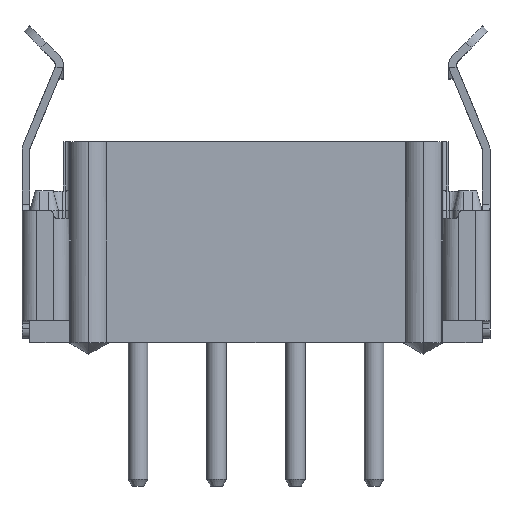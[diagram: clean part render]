
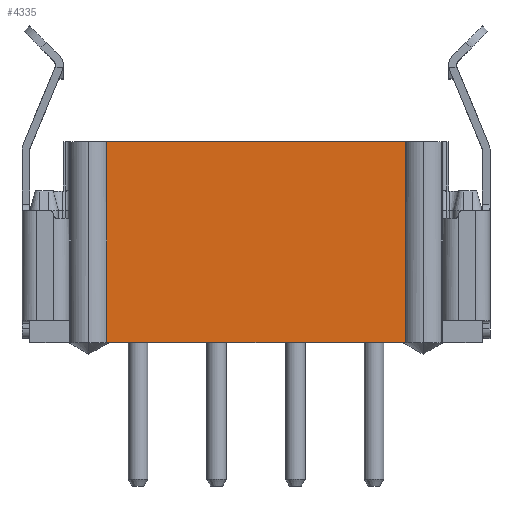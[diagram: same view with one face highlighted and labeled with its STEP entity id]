
A CAD part, top view. The second image highlights one B-rep face of the part: STEP entity #4335.
In plain terms, the highlighted planar face has unit normal (0, 0, 1).
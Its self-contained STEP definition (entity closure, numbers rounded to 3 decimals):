
#81=DIRECTION('',(-1.,0.,0.));
#82=VECTOR('',#81,7.583);
#83=CARTESIAN_POINT('',(3.792,0.,2.775));
#84=LINE('',#83,#82);
#931=DIRECTION('',(-1.,0.,0.));
#932=VECTOR('',#931,7.583);
#933=CARTESIAN_POINT('',(3.792,5.1,2.775));
#934=LINE('',#933,#932);
#1075=DIRECTION('',(0.,1.,0.));
#1076=VECTOR('',#1075,5.1);
#1077=CARTESIAN_POINT('',(-3.792,0.,2.775));
#1078=LINE('',#1077,#1076);
#1082=DIRECTION('',(0.,-1.,0.));
#1083=VECTOR('',#1082,5.1);
#1084=CARTESIAN_POINT('',(3.792,5.1,2.775));
#1085=LINE('',#1084,#1083);
#3231=CARTESIAN_POINT('',(3.792,0.,2.775));
#3233=VERTEX_POINT('',#3231);
#3239=CARTESIAN_POINT('',(3.792,5.1,2.775));
#3240=VERTEX_POINT('',#3239);
#3461=CARTESIAN_POINT('',(-3.792,0.,2.775));
#3463=VERTEX_POINT('',#3461);
#3469=CARTESIAN_POINT('',(-3.792,5.1,2.775));
#3470=VERTEX_POINT('',#3469);
#4322=CARTESIAN_POINT('',(4.75,0.,2.775));
#4323=DIRECTION('',(0.,0.,1.));
#4324=DIRECTION('',(-1.,0.,0.));
#4325=AXIS2_PLACEMENT_3D('',#4322,#4323,#4324);
#4326=PLANE('',#4325);
#4328=ORIENTED_EDGE('',*,*,#4327,.T.);
#4329=ORIENTED_EDGE('',*,*,#4252,.F.);
#4331=ORIENTED_EDGE('',*,*,#4330,.T.);
#4332=ORIENTED_EDGE('',*,*,#3624,.T.);
#4333=EDGE_LOOP('',(#4328,#4329,#4331,#4332));
#4334=FACE_OUTER_BOUND('',#4333,.F.);
#3624=EDGE_CURVE('',#3233,#3463,#84,.T.);
#4252=EDGE_CURVE('',#3240,#3470,#934,.T.);
#4327=EDGE_CURVE('',#3463,#3470,#1078,.T.);
#4330=EDGE_CURVE('',#3240,#3233,#1085,.T.);
#4335=ADVANCED_FACE('',(#4334),#4326,.T.);
